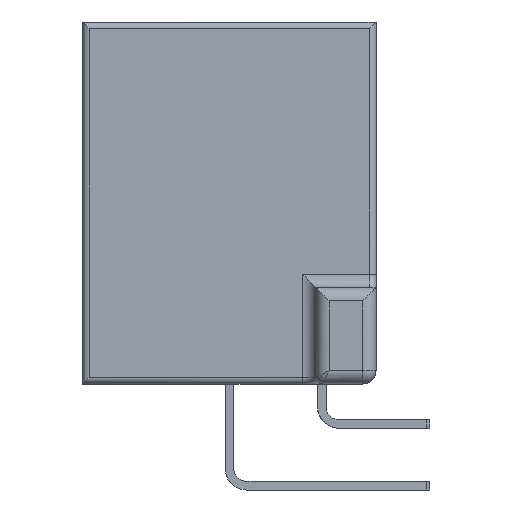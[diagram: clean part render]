
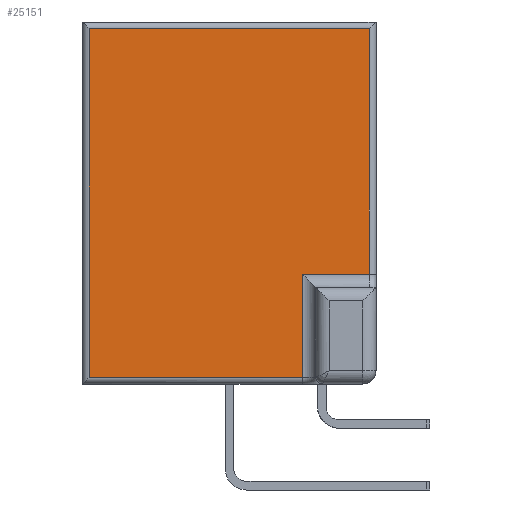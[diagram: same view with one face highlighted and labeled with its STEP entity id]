
A CAD part, left-side view. The second image highlights one B-rep face of the part: STEP entity #25151.
In plain terms, the highlighted planar face has unit normal (-1, 0, 0).
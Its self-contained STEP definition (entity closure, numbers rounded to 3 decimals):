
#3848=DIRECTION('',(0.,1.,0.));
#3849=VECTOR('',#3848,15.9);
#3850=CARTESIAN_POINT('',(-55.15,-5.44,-26.5));
#3851=LINE('',#3850,#3849);
#3852=DIRECTION('',(0.,0.,-1.));
#3853=VECTOR('',#3852,26.);
#3854=CARTESIAN_POINT('',(-55.15,10.46,-0.5));
#3855=LINE('',#3854,#3853);
#3856=DIRECTION('',(0.,1.,0.));
#3857=VECTOR('',#3856,20.9);
#3858=CARTESIAN_POINT('',(-55.15,-10.44,-0.5));
#3859=LINE('',#3858,#3857);
#3860=DIRECTION('',(0.,0.,-1.));
#3861=VECTOR('',#3860,18.3);
#3862=CARTESIAN_POINT('',(-55.15,-10.44,-0.5));
#3863=LINE('',#3862,#3861);
#3864=DIRECTION('',(0.,-1.,0.));
#3865=VECTOR('',#3864,5.);
#3866=CARTESIAN_POINT('',(-55.15,-5.44,-18.8));
#3867=LINE('',#3866,#3865);
#3868=DIRECTION('',(0.,0.,1.));
#3869=VECTOR('',#3868,7.7);
#3870=CARTESIAN_POINT('',(-55.15,-5.44,-26.5));
#3871=LINE('',#3870,#3869);
#15339=CARTESIAN_POINT('',(-55.15,-5.44,-18.8));
#20960=VERTEX_POINT('',#15339);
#21054=CARTESIAN_POINT('',(-55.15,-5.44,-26.5));
#21055=VERTEX_POINT('',#21054);
#21056=CARTESIAN_POINT('',(-55.15,10.46,-26.5));
#21057=VERTEX_POINT('',#21056);
#21062=CARTESIAN_POINT('',(-55.15,10.46,-0.5));
#21063=VERTEX_POINT('',#21062);
#21066=CARTESIAN_POINT('',(-55.15,-10.44,-0.5));
#21067=VERTEX_POINT('',#21066);
#21078=CARTESIAN_POINT('',(-55.15,-10.44,-18.8));
#21079=VERTEX_POINT('',#21078);
#25136=CARTESIAN_POINT('',(-55.15,10.96,0.));
#25137=DIRECTION('',(-1.,0.,0.));
#25138=DIRECTION('',(0.,-1.,0.));
#25139=AXIS2_PLACEMENT_3D('',#25136,#25137,#25138);
#25140=PLANE('',#25139);
#25141=ORIENTED_EDGE('',*,*,#25128,.T.);
#25142=ORIENTED_EDGE('',*,*,#24867,.F.);
#25143=ORIENTED_EDGE('',*,*,#24882,.F.);
#25144=ORIENTED_EDGE('',*,*,#24896,.T.);
#25146=ORIENTED_EDGE('',*,*,#25145,.F.);
#25148=ORIENTED_EDGE('',*,*,#25147,.F.);
#25149=EDGE_LOOP('',(#25141,#25142,#25143,#25144,#25146,#25148));
#25150=FACE_OUTER_BOUND('',#25149,.F.);
#25151=ADVANCED_FACE('',(#25150),#25140,.T.);
#24867=EDGE_CURVE('',#21063,#21057,#3855,.T.);
#24882=EDGE_CURVE('',#21067,#21063,#3859,.T.);
#24896=EDGE_CURVE('',#21067,#21079,#3863,.T.);
#25128=EDGE_CURVE('',#21055,#21057,#3851,.T.);
#25145=EDGE_CURVE('',#20960,#21079,#3867,.T.);
#25147=EDGE_CURVE('',#21055,#20960,#3871,.T.);
